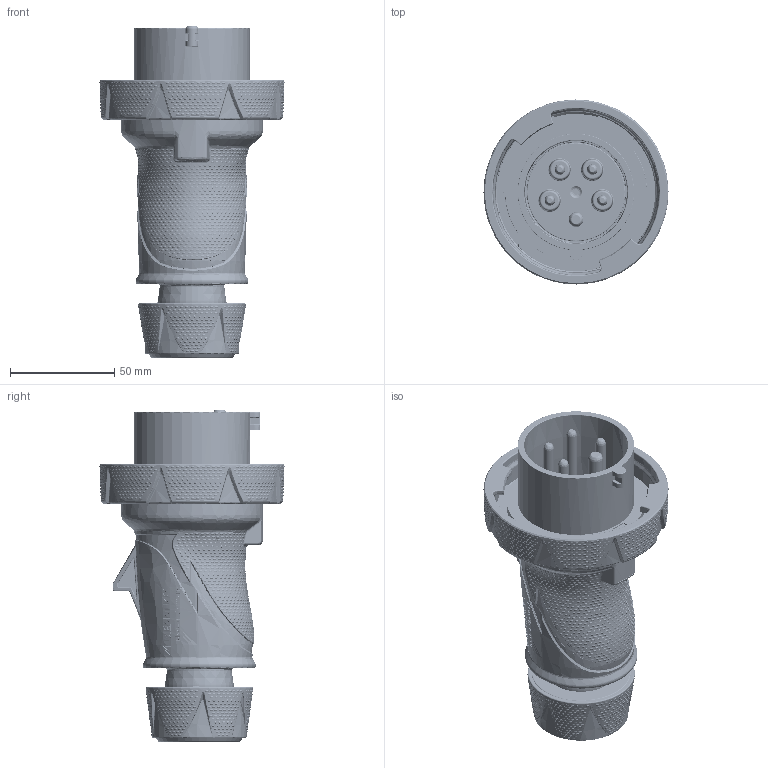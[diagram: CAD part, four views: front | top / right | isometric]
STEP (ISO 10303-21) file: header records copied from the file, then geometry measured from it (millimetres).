
FILE_DESCRIPTION((''),'2;1');
FILE_NAME('1109777_ASM_SW0002','2024-02-05T08:42:23',('rettler001'),('MENNEKES'),'CREO PARAMETRIC BY PTC INC, 2019080','CREO PARAMETRIC BY PTC INC, 2019080','');
FILE_SCHEMA(('AUTOMOTIVE_DESIGN { 1 0 10303 214 1 1 1 1 }'));
Products named in the file (1): 1109777_ASM_SW0002
Bounding box: 88.69 x 88.69 x 159.05 mm (x, y, z)
Volume: 324522.1 mm3; surface area: 58714.4 mm2
Topology: 1 solids, 2 shells, 4434 faces, 9962 edges, 7886 vertices
Faces by surface type: torus 2518, bspline 1381, extrusion 194, cylinder 138, plane 108, cone 75, sphere 20
Entity records: 274398 total; most frequent: CARTESIAN_POINT 159380, ORIENTED_EDGE 19924, EDGE_CURVE 9962, DIRECTION 8712, B_SPLINE_CURVE_WITH_KNOTS 8495, VERTEX_POINT 7886, EDGE_LOOP 6792, PRESENTATION_STYLE_ASSIGNMENT 4560
